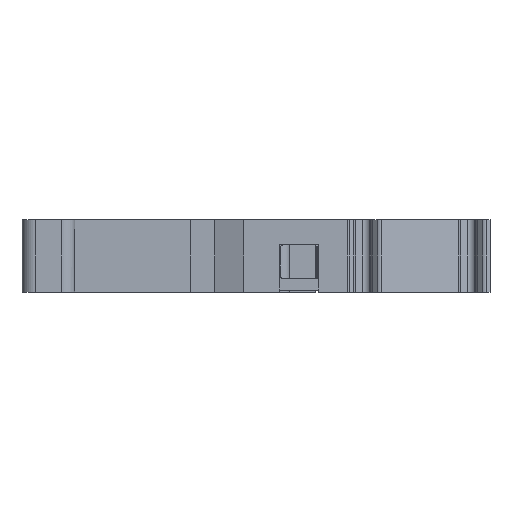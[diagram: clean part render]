
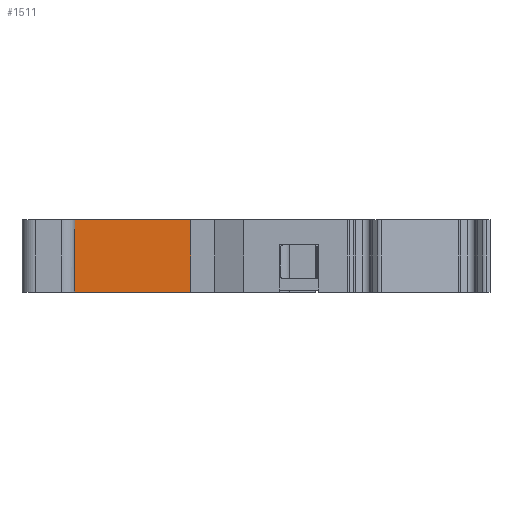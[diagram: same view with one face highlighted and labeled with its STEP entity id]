
A CAD part, left-side view. The second image highlights one B-rep face of the part: STEP entity #1511.
In plain terms, the highlighted planar face has unit normal (-1, 0, 0).
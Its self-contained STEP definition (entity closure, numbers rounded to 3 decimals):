
#1511=ADVANCED_FACE('',(#20630),#20632,.T.);
#20630=FACE_BOUND('',#20631,.T.);
#20631=EDGE_LOOP('',(#35905,#35906,#35907,#35908,#35909,#35910));
#20632=PLANE('',#20633);
#20633=AXIS2_PLACEMENT_3D('',#20634,#20635,#20636);
#20634=CARTESIAN_POINT('',(-19.15,-4.29,0.));
#20635=DIRECTION('',(-1.,0.,0.));
#20636=DIRECTION('',(0.,-1.,0.));
#35905=ORIENTED_EDGE('',*,*,#47892,.T.);
#35906=ORIENTED_EDGE('',*,*,#48022,.T.);
#35907=ORIENTED_EDGE('',*,*,#47623,.F.);
#35908=ORIENTED_EDGE('',*,*,#48021,.F.);
#35909=ORIENTED_EDGE('',*,*,#48023,.F.);
#35910=ORIENTED_EDGE('',*,*,#48024,.T.);
#47623=EDGE_CURVE('',#54158,#54160,#54161,.T.);
#47892=EDGE_CURVE('',#54666,#54664,#54667,.T.);
#48021=EDGE_CURVE('',#54867,#54158,#54869,.T.);
#48022=EDGE_CURVE('',#54664,#54160,#54870,.T.);
#48023=EDGE_CURVE('',#54871,#54867,#54872,.T.);
#48024=EDGE_CURVE('',#54871,#54666,#54873,.T.);
#54158=VERTEX_POINT('',#65727);
#54160=VERTEX_POINT('',#65731);
#54161=LINE('',#65732,#65733);
#54664=VERTEX_POINT('',#66948);
#54666=VERTEX_POINT('',#66952);
#54667=LINE('',#66953,#66954);
#54867=VERTEX_POINT('',#67437);
#54869=LINE('',#67441,#67442);
#54870=LINE('',#67444,#67445);
#54871=VERTEX_POINT('',#67447);
#54872=LINE('',#67448,#67449);
#54873=LINE('',#67451,#67452);
#65727=CARTESIAN_POINT('',(-19.15,-4.29,5.5));
#65731=CARTESIAN_POINT('',(-19.15,-13.138,5.5));
#65732=CARTESIAN_POINT('',(-19.15,-4.29,5.5));
#65733=VECTOR('',#65734,1.);
#65734=DIRECTION('',(0.,-1.,0.));
#66948=CARTESIAN_POINT('',(-19.15,-13.138,0.));
#66952=CARTESIAN_POINT('',(-19.15,-1.973,0.));
#66953=CARTESIAN_POINT('',(-19.15,-1.973,0.));
#66954=VECTOR('',#66955,1.);
#66955=DIRECTION('',(0.,-1.,0.));
#67437=CARTESIAN_POINT('',(-19.15,-4.29,4.8));
#67441=CARTESIAN_POINT('',(-19.15,-4.29,4.8));
#67442=VECTOR('',#67443,1.);
#67443=DIRECTION('',(0.,0.,1.));
#67444=CARTESIAN_POINT('',(-19.15,-13.138,0.));
#67445=VECTOR('',#67446,1.);
#67446=DIRECTION('',(0.,0.,1.));
#67447=CARTESIAN_POINT('',(-19.15,-1.973,4.8));
#67448=CARTESIAN_POINT('',(-19.15,-1.973,4.8));
#67449=VECTOR('',#67450,1.);
#67450=DIRECTION('',(0.,-1.,0.));
#67451=CARTESIAN_POINT('',(-19.15,-1.973,4.8));
#67452=VECTOR('',#67453,1.);
#67453=DIRECTION('',(0.,0.,-1.));
